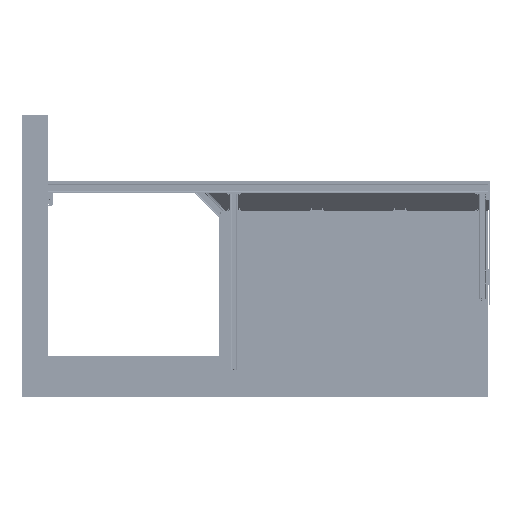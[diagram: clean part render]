
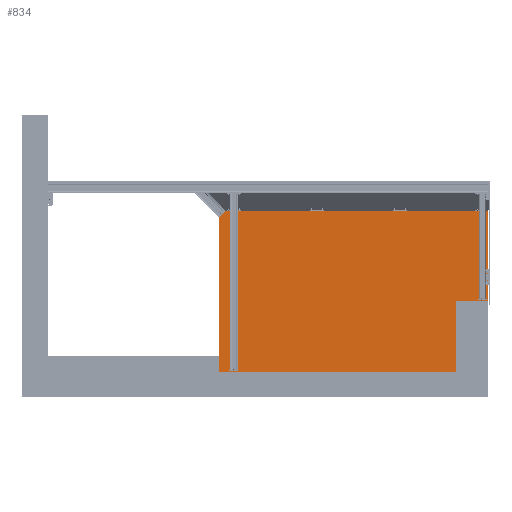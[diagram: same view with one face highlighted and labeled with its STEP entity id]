
A CAD part, left-side view. The second image highlights one B-rep face of the part: STEP entity #834.
In plain terms, the highlighted planar face has unit normal (-1, 0, 0).
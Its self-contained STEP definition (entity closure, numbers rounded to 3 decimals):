
#467=CARTESIAN_POINT('',(8000.,3589.999,24110.));
#468=VERTEX_POINT('',#467);
#469=CARTESIAN_POINT('',(8000.,3690.,24009.999));
#470=VERTEX_POINT('',#469);
#471=CARTESIAN_POINT('',(8000.,3589.999,24110.));
#472=DIRECTION('',(-0.,0.707,-0.707));
#473=VECTOR('',#472,141.423);
#474=LINE('',#471,#473);
#475=EDGE_CURVE('',#468,#470,#474,.T.);
#563=CARTESIAN_POINT('',(8000.,-500.,24110.));
#564=VERTEX_POINT('',#563);
#565=CARTESIAN_POINT('',(8000.,3589.999,24110.));
#566=DIRECTION('',(0.,-1.,0.));
#567=VECTOR('',#566,4089.999);
#568=LINE('',#565,#567);
#569=EDGE_CURVE('',#468,#564,#568,.T.);
#628=CARTESIAN_POINT('',(8000.,0.001,22710.001));
#629=VERTEX_POINT('',#628);
#636=CARTESIAN_POINT('',(8000.,0.001,21610.));
#637=VERTEX_POINT('',#636);
#638=CARTESIAN_POINT('',(8000.,0.001,21610.));
#639=DIRECTION('',(-0.,-0.,1.));
#640=VECTOR('',#639,1100.001);
#641=LINE('',#638,#640);
#642=EDGE_CURVE('',#637,#629,#641,.T.);
#697=CARTESIAN_POINT('',(8000.,-500.,22710.001));
#698=VERTEX_POINT('',#697);
#705=CARTESIAN_POINT('',(8000.,0.001,22710.001));
#706=DIRECTION('',(-0.,-1.,-0.));
#707=VECTOR('',#706,500.001);
#708=LINE('',#705,#707);
#709=EDGE_CURVE('',#629,#698,#708,.T.);
#792=CARTESIAN_POINT('',(8000.,3690.,21610.));
#793=VERTEX_POINT('',#792);
#794=CARTESIAN_POINT('',(8000.,3690.,21610.));
#795=DIRECTION('',(0.,-1.,0.));
#796=VECTOR('',#795,3689.999);
#797=LINE('',#794,#796);
#798=EDGE_CURVE('',#793,#637,#797,.T.);
#810=CARTESIAN_POINT('',(8000.,3690.,24110.));
#811=DIRECTION('',(-1.,0.,0.));
#812=DIRECTION('',(0.,0.,-1.));
#813=AXIS2_PLACEMENT_3D('',#810,#811,#812);
#814=PLANE('',#813);
#815=ORIENTED_EDGE('',*,*,#475,.T.);
#816=CARTESIAN_POINT('',(8000.,3690.,24009.999));
#817=DIRECTION('',(0.,0.,-1.));
#818=VECTOR('',#817,2399.999);
#819=LINE('',#816,#818);
#820=EDGE_CURVE('',#470,#793,#819,.T.);
#821=ORIENTED_EDGE('',*,*,#820,.T.);
#822=ORIENTED_EDGE('',*,*,#798,.T.);
#823=ORIENTED_EDGE('',*,*,#642,.T.);
#824=ORIENTED_EDGE('',*,*,#709,.T.);
#825=CARTESIAN_POINT('',(8000.,-500.,24110.));
#826=DIRECTION('',(0.,0.,-1.));
#827=VECTOR('',#826,1399.999);
#828=LINE('',#825,#827);
#829=EDGE_CURVE('',#564,#698,#828,.T.);
#830=ORIENTED_EDGE('',*,*,#829,.F.);
#831=ORIENTED_EDGE('',*,*,#569,.F.);
#832=EDGE_LOOP('',(#815,#821,#822,#823,#824,#830,#831));
#833=FACE_BOUND('',#832,.T.);
#834=ADVANCED_FACE('',(#833),#814,.T.);
